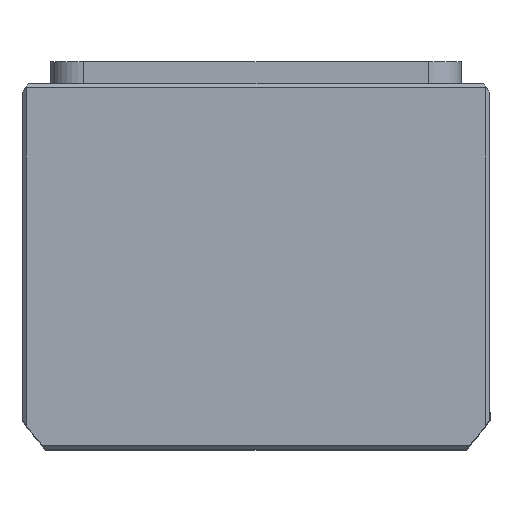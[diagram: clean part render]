
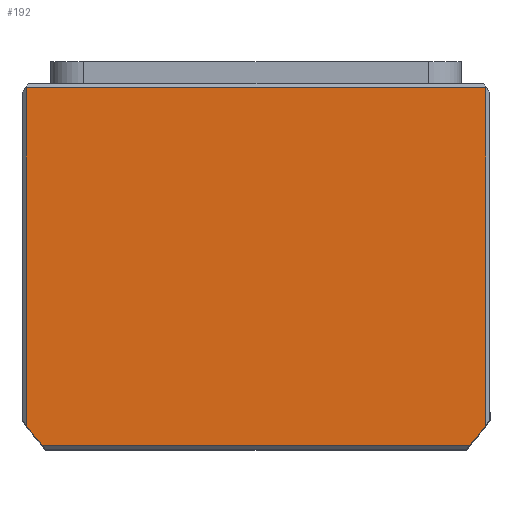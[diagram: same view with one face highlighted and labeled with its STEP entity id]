
A CAD part, top view. The second image highlights one B-rep face of the part: STEP entity #192.
In plain terms, the highlighted planar face has unit normal (0, 0, 1) as drawn and (0, 0, -1) by its records, which use the part's own axes.
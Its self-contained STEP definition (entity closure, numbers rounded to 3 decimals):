
#192 = ADVANCED_FACE ( 'NONE', ( #15583 ), #16348, .F. ) ;
#309 = EDGE_CURVE ( 'NONE', #8011, #17925, #19030, .T. ) ;
#415 = CARTESIAN_POINT ( 'NONE',  ( -56., -43.5, 0. ) ) ;
#976 = ORIENTED_EDGE ( 'NONE', *, *, #10060, .T. ) ;
#1153 = ORIENTED_EDGE ( 'NONE', *, *, #9218, .T. ) ;
#1238 = CARTESIAN_POINT ( 'NONE',  ( -56., 0., 0. ) ) ;
#1590 = ORIENTED_EDGE ( 'NONE', *, *, #309, .F. ) ;
#1773 = VECTOR ( 'NONE', #19039, 1000. ) ;
#2617 = CARTESIAN_POINT ( 'NONE',  ( 0., -2.5, 0. ) ) ;
#3297 = DIRECTION ( 'NONE',  ( 0., -1., 0. ) ) ;
#4128 = DIRECTION ( 'NONE',  ( 1., 0., 0. ) ) ;
#4692 = CARTESIAN_POINT ( 'NONE',  ( 52.098, 43.5, 0. ) ) ;
#4799 = CARTESIAN_POINT ( 'NONE',  ( 56., 0., 0. ) ) ;
#5352 = VECTOR ( 'NONE', #17875, 1000. ) ;
#6040 = CIRCLE ( 'NONE', #18117, 69.5 ) ;
#6456 = ORIENTED_EDGE ( 'NONE', *, *, #17873, .T. ) ;
#6841 = EDGE_CURVE ( 'NONE', #8011, #10913, #17483, .T. ) ;
#7324 = AXIS2_PLACEMENT_3D ( 'NONE', #17121, #16145, #16005 ) ;
#7474 = CARTESIAN_POINT ( 'NONE',  ( 0., -43.5, 0. ) ) ;
#8011 = VERTEX_POINT ( 'NONE', #18758 ) ;
#8305 = AXIS2_PLACEMENT_3D ( 'NONE', #9793, #9737, #9036 ) ;
#8439 = VECTOR ( 'NONE', #8604, 1000. ) ;
#8604 = DIRECTION ( 'NONE',  ( 0., 1., 0. ) ) ;
#8671 = CARTESIAN_POINT ( 'NONE',  ( -52.098, 43.5, 0. ) ) ;
#9036 = DIRECTION ( 'NONE',  ( 1., 0., 0. ) ) ;
#9218 = EDGE_CURVE ( 'NONE', #9757, #18905, #9394, .T. ) ;
#9394 = LINE ( 'NONE', #1238, #8439 ) ;
#9737 = DIRECTION ( 'NONE',  ( 0., 0., 1. ) ) ;
#9757 = VERTEX_POINT ( 'NONE', #415 ) ;
#9793 = CARTESIAN_POINT ( 'NONE',  ( 0., -2.5, 0. ) ) ;
#10060 = EDGE_CURVE ( 'NONE', #18916, #17925, #17016, .T. ) ;
#10189 = CARTESIAN_POINT ( 'NONE',  ( 0., 43.5, 0. ) ) ;
#10913 = VERTEX_POINT ( 'NONE', #13075 ) ;
#11496 = EDGE_LOOP ( 'NONE', ( #1590, #17279, #6456, #1153, #17334, #976 ) ) ;
#12943 = DIRECTION ( 'NONE',  ( 0., 0., 1. ) ) ;
#13075 = CARTESIAN_POINT ( 'NONE',  ( 56., -43.5, 0. ) ) ;
#14495 = VECTOR ( 'NONE', #3297, 1000. ) ;
#15583 = FACE_OUTER_BOUND ( 'NONE', #11496, .T. ) ;
#16005 = DIRECTION ( 'NONE',  ( 1., 0., 0. ) ) ;
#16145 = DIRECTION ( 'NONE',  ( 0., 0., 1. ) ) ;
#16348 = PLANE ( 'NONE',  #7324 ) ;
#17016 = LINE ( 'NONE', #10189, #1773 ) ;
#17121 = CARTESIAN_POINT ( 'NONE',  ( 0., 0., 0. ) ) ;
#17125 = LINE ( 'NONE', #7474, #5352 ) ;
#17279 = ORIENTED_EDGE ( 'NONE', *, *, #6841, .T. ) ;
#17334 = ORIENTED_EDGE ( 'NONE', *, *, #18723, .F. ) ;
#17483 = LINE ( 'NONE', #4799, #14495 ) ;
#17522 = CARTESIAN_POINT ( 'NONE',  ( -56., 38.661, 0. ) ) ;
#17873 = EDGE_CURVE ( 'NONE', #10913, #9757, #17125, .T. ) ;
#17875 = DIRECTION ( 'NONE',  ( -1., 0., 0. ) ) ;
#17925 = VERTEX_POINT ( 'NONE', #4692 ) ;
#18117 = AXIS2_PLACEMENT_3D ( 'NONE', #2617, #12943, #4128 ) ;
#18723 = EDGE_CURVE ( 'NONE', #18916, #18905, #6040, .T. ) ;
#18758 = CARTESIAN_POINT ( 'NONE',  ( 56., 38.661, 0. ) ) ;
#18905 = VERTEX_POINT ( 'NONE', #17522 ) ;
#18916 = VERTEX_POINT ( 'NONE', #8671 ) ;
#19030 = CIRCLE ( 'NONE', #8305, 69.5 ) ;
#19039 = DIRECTION ( 'NONE',  ( 1., 0., 0. ) ) ;
